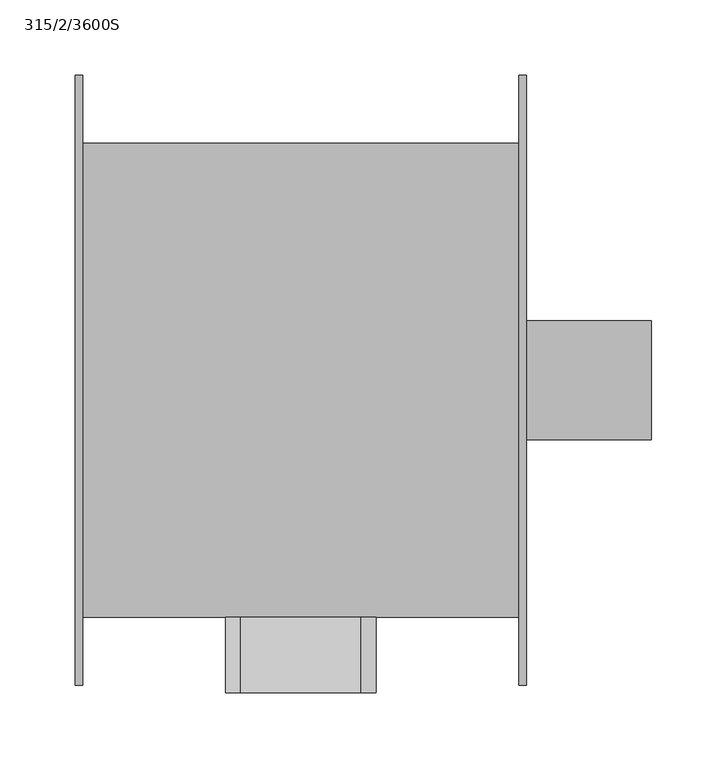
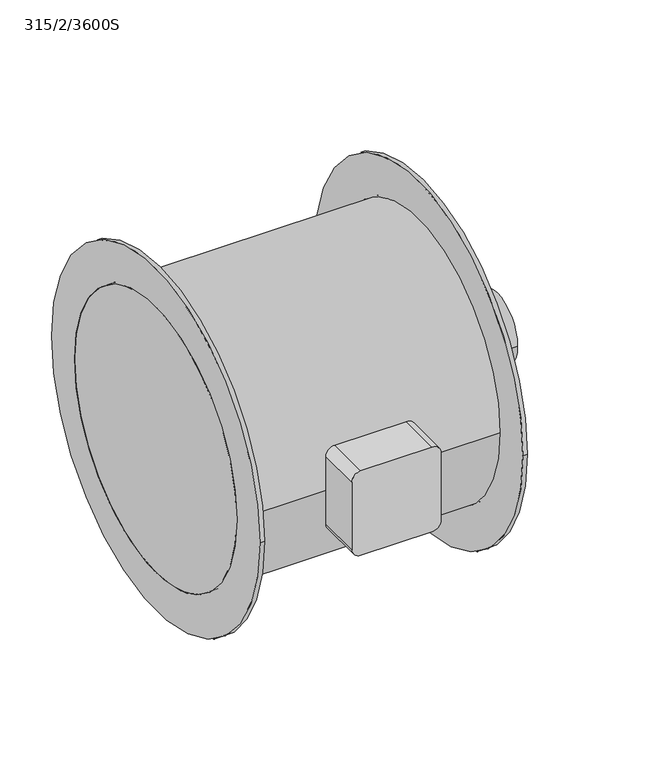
"""IFC4 building model written with IfcOpenShell, lengths in millimetres: unitary equipment geometry, VE-Wentylator-ParaForma-Harmann-AXER-Nawiewny : 315/2/3600S."""

from ifc_helpers import new_model, si_unit, point, frame, frame_2d, origin, origin_2d, place, context, project, spatial, polyline, circle_curve, trimmed, segment, composite_curve, outline, extrude, source, transform, mapped, element, save


def unitary_equipment_315_2_3600s_e2174b6a(model_context):
    return source(origin(), model_context, "Body", "SweptSolid", [
        extrude(outline(composite_curve([segment(trimmed(circle_curve(origin_2d(), 39.4), [point((-39.4, 0.0))], [point((39.4, 0.0))], False, "CARTESIAN"), True, "CONTINUOUS"), segment(trimmed(circle_curve(origin_2d(), 39.4), [point((39.4, 0.0))], [point((-39.4, 0.0))], False, "CARTESIAN"), True, "CONTINUOUS")], self_intersect=False)), frame((150.0, 0.0, 0.0), z_axis=(1.0, 0.0, 0.0), x_axis=(0.0, 1.0, 0.0)), (0.0, 0.0, 1.0), 83.0),
        extrude(outline(composite_curve([segment(trimmed(circle_curve(frame_2d((-40.0, 40.0)), 10.0), [point((-50.0, 40.0))], [point((-40.0, 50.0))], False, "CARTESIAN"), True, "CONTINUOUS"), segment(polyline([(-40.0, 50.0), (40.0, 50.0)]), True, "CONTINUOUS"), segment(trimmed(circle_curve(frame_2d((40.0, 40.0)), 10.0), [point((40.0, 50.0))], [point((50.0, 40.0))], False, "CARTESIAN"), True, "CONTINUOUS"), segment(polyline([(50.0, 40.0), (50.0, -40.0)]), True, "CONTINUOUS"), segment(trimmed(circle_curve(frame_2d((40.0, -40.0)), 10.0), [point((50.0, -40.0))], [point((40.0, -50.0))], False, "CARTESIAN"), True, "CONTINUOUS"), segment(polyline([(40.0, -50.0), (-40.0, -50.0)]), True, "CONTINUOUS"), segment(trimmed(circle_curve(frame_2d((-40.0, -40.0)), 10.0), [point((-40.0, -50.0))], [point((-50.0, -40.0))], False, "CARTESIAN"), True, "CONTINUOUS"), segment(polyline([(-50.0, -40.0), (-50.0, 40.0)]), True, "CONTINUOUS")], self_intersect=False)), frame((0.0, -207.5, 0.0), z_axis=(0.0, 1.0, 0.0), x_axis=(0.0, 0.0, 1.0)), (0.0, 0.0, 1.0), 50.0),
        extrude(outline(composite_curve([segment(trimmed(circle_curve(origin_2d(), 202.5), [point((-202.5, 0.0))], [point((202.5, 0.0))], False, "CARTESIAN"), True, "CONTINUOUS"), segment(trimmed(circle_curve(origin_2d(), 202.5), [point((202.5, 0.0))], [point((-202.5, 0.0))], False, "CARTESIAN"), True, "CONTINUOUS")], self_intersect=False), holes=[composite_curve([segment(trimmed(circle_curve(origin_2d(), 157.5), [point((-157.5, 0.0))], [point((157.5, 0.0))], True, "CARTESIAN"), True, "CONTINUOUS"), segment(trimmed(circle_curve(origin_2d(), 157.5), [point((157.5, 0.0))], [point((-157.5, 0.0))], True, "CARTESIAN"), True, "CONTINUOUS")], self_intersect=False)]), frame((145.0, 0.0, 0.0), z_axis=(1.0, 0.0, 0.0), x_axis=(0.0, 1.0, 0.0)), (0.0, 0.0, 1.0), 5.0),
        extrude(outline(composite_curve([segment(trimmed(circle_curve(origin_2d(), 202.5), [point((-202.5, 0.0))], [point((202.5, 0.0))], False, "CARTESIAN"), True, "CONTINUOUS"), segment(trimmed(circle_curve(origin_2d(), 202.5), [point((202.5, 0.0))], [point((-202.5, 0.0))], False, "CARTESIAN"), True, "CONTINUOUS")], self_intersect=False), holes=[composite_curve([segment(trimmed(circle_curve(origin_2d(), 157.5), [point((-157.5, 0.0))], [point((157.5, 0.0))], True, "CARTESIAN"), True, "CONTINUOUS"), segment(trimmed(circle_curve(origin_2d(), 157.5), [point((157.5, 0.0))], [point((-157.5, 0.0))], True, "CARTESIAN"), True, "CONTINUOUS")], self_intersect=False)]), frame((-150.0, 0.0, 0.0), z_axis=(1.0, 0.0, 0.0), x_axis=(0.0, 1.0, 0.0)), (0.0, 0.0, 1.0), 5.0),
        extrude(outline(composite_curve([segment(trimmed(circle_curve(origin_2d(), 157.5), [point((-157.5, 0.0))], [point((157.5, 0.0))], False, "CARTESIAN"), True, "CONTINUOUS"), segment(trimmed(circle_curve(origin_2d(), 157.5), [point((157.5, 0.0))], [point((-157.5, 0.0))], False, "CARTESIAN"), True, "CONTINUOUS")], self_intersect=False)), frame((-150.0, 0.0, 0.0), z_axis=(1.0, 0.0, 0.0), x_axis=(0.0, 1.0, 0.0)), (0.0, 0.0, 1.0), 300.0),
    ])


if __name__ == "__main__":
    model = new_model("IFC4")
    model_context = context("Model", 3, world=origin())
    ifc_project = project(units=[si_unit("LENGTHUNIT", "METRE", prefix="MILLI")], contexts=[model_context])
    site = spatial("IfcSite", under=ifc_project)
    building = spatial("IfcBuilding", under=site)
    placement = place(None, origin())
    unitary_equipment_315_2_3600s_shape = unitary_equipment_315_2_3600s_e2174b6a(model_context)
    element("IfcUnitaryEquipment", 1, ObjectType="VE-Wentylator-ParaForma-Harmann-AXER-Nawiewny : 315/2/3600S", at=placement, inside=building, context=model_context, shape_type="MappedRepresentation", body=[
        mapped(unitary_equipment_315_2_3600s_shape, transform((0.0, 0.0, 0.0), x_axis=(1.0, 0.0, 0.0), y_axis=(0.0, 1.0, 0.0), z_axis=(0.0, 0.0, 1.0))),
    ])
    save(model, "model.ifc")
